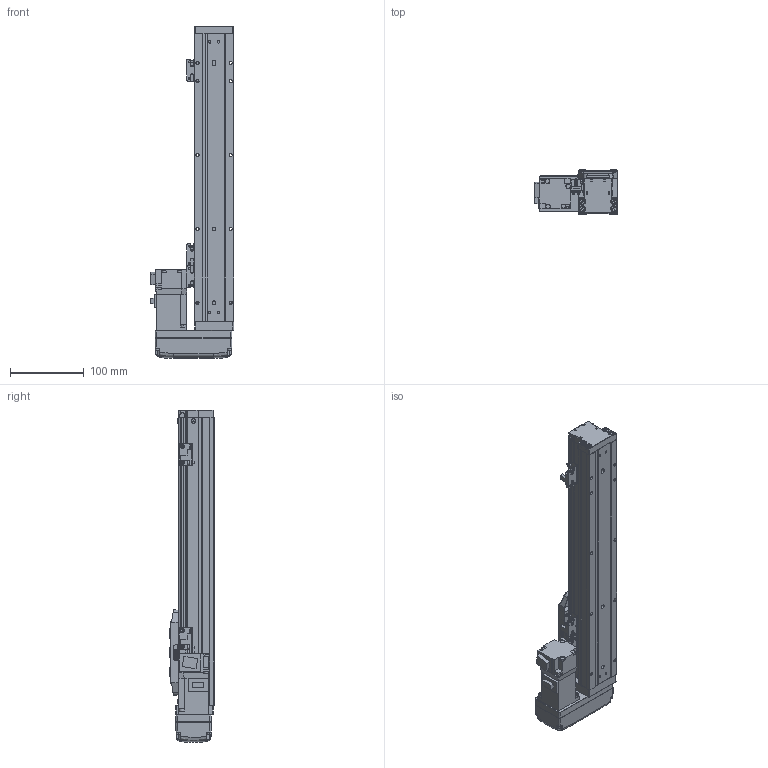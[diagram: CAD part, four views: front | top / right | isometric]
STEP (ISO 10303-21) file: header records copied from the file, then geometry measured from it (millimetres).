
FILE_DESCRIPTION (( 'STEP AP203' ), '1' );
FILE_NAME ('GTH5-250-BL-M10-C4.step', '2022-09-23T00:43:52', ( '微软用户' ), ( '微软中国' ), 'SwSTEP 2.0', 'SolidWorks 2020', '' );
FILE_SCHEMA (( 'CONFIG_CONTROL_DESIGN' ));
Length unit declared in the file: millimetre
Products named in the file (19): GTH50-001_250; GTH50-024; GTH5-250-BL-M10-C4; GBT 70.1-M4×16; GBT 70.1-M2.5×6; GTH50-003; GTH50-028; GTH50-006; GTH50-013; GTH50-022-1; GTH50-004; GTH50-023; HG-KR13; GBT 70.3-M3℅6; GBT 70.1-M3℅6; GTH50-027-1_BTHA50-027-2; BTH-M3X5X6; GBT96.1-2002 3×0.8; GTH50-026
Assembly tree (57 placements, depth 2):
  GTH5-250-BL-M10-C4
    GTH50-006
    GTH50-004
    GBT 70.3-M3℅6  x4
    BTH-M3X5X6  x8
    GTH50-001_250
    GBT 70.1-M4×16  x8
    GTH50-003
    GTH50-013
    GTH50-023  x3
    GBT 70.1-M3℅6  x12
    GBT96.1-2002 3×0.8  x6
    GTH50-024  x3
    GBT 70.1-M2.5×6  x2
    GTH50-028  x2
    GTH50-022-1
    HG-KR13
    GTH50-027-1_BTHA50-027-2
    GTH50-026
Bounding box: 113.8 x 60 x 450 mm (x, y, z)
Volume: 1101107.1 mm3; surface area: 219830.6 mm2
Topology: 59 solids, 59 shells, 2148 faces, 4980 edges, 3052 vertices
Faces by surface type: plane 1142, cylinder 577, cone 219, torus 162, bspline 40, sphere 8
Entity records: 39716 total; most frequent: CARTESIAN_POINT 7875, DIRECTION 6101, ORIENTED_EDGE 5874, EDGE_CURVE 2937, AXIS2_PLACEMENT_3D 2116, VECTOR 1869, LINE 1869, VERTEX_POINT 1854
